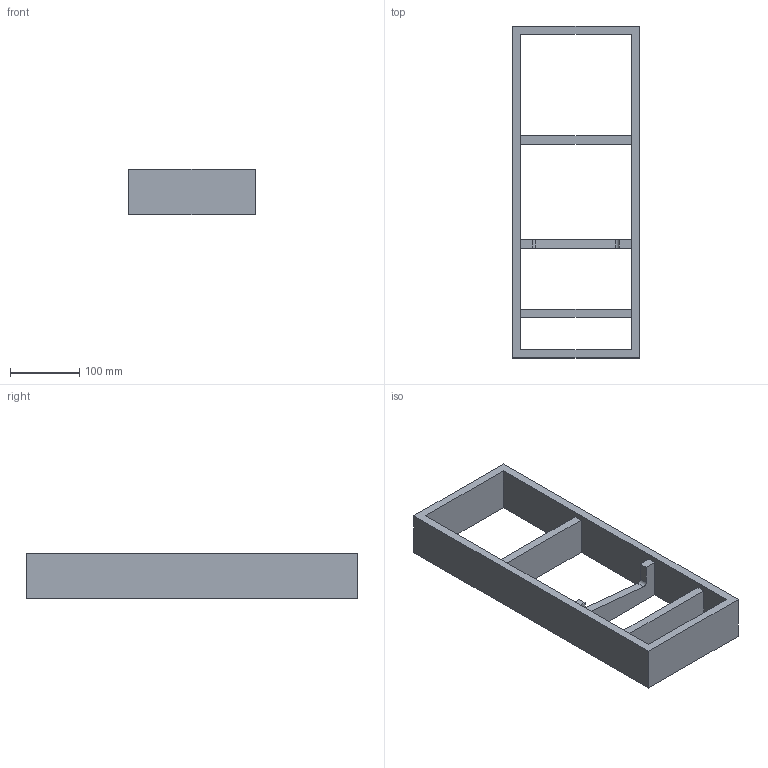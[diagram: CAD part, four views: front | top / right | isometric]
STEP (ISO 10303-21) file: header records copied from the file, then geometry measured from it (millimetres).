
FILE_DESCRIPTION (( 'STEP AP214' ), '1' );
FILE_NAME ('Vario Messer_Modul_H65_NL500_B275_16mm_Alu_Buche.step', '2010-10-07T06:11:44', ( 'grass' ), ( '' ), 'SwSTEP 2.0', 'SolidWorks 2010', '' );
FILE_SCHEMA (( 'AUTOMOTIVE_DESIGN' ));
Length unit declared in the file: millimetre
Products named in the file (1): Vario Messer_Modul_H65_NL500_B275_16mm_Alu_Buche
Bounding box: 183 x 479 x 65 mm (x, y, z)
Volume: 1282679.5 mm3; surface area: 252326.2 mm2
Topology: 1 solids, 1 shells, 25 faces, 78 edges, 52 vertices
Faces by surface type: plane 23, cylinder 2
Entity records: 906 total; most frequent: CARTESIAN_POINT 156, ORIENTED_EDGE 156, DIRECTION 134, EDGE_CURVE 78, VECTOR 74, LINE 74, VERTEX_POINT 52, AXIS2_PLACEMENT_3D 30
